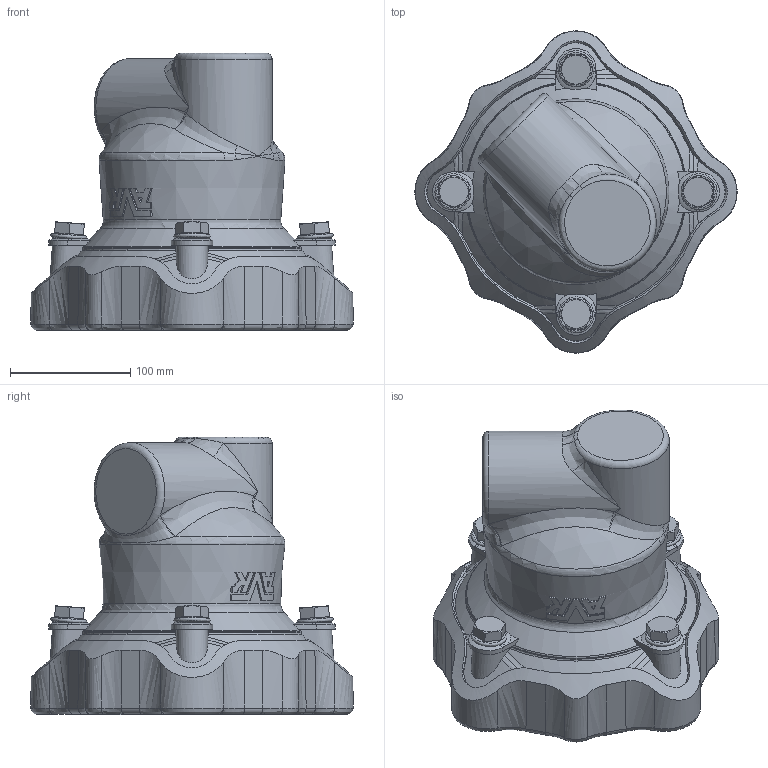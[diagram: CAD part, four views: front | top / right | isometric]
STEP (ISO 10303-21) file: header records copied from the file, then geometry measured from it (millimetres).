
FILE_DESCRIPTION (( 'STEP AP203' ), '1' );
FILE_NAME ('O_634_00_DN100_104-133mm_AA0_step.step', '2016-05-10T10:48:43', ( 'Windows User' ), ( 'AVK' ), 'SwSTEP 2.0', 'SolidWorks 2012', '' );
FILE_SCHEMA (( 'CONFIG_CONTROL_DESIGN' ));
Length unit declared in the file: millimetre
Products named in the file (1): O_634_00_DN100_104-133mm_AA0_step
Bounding box: 267.53 x 267.53 x 230.51 mm (x, y, z)
Volume: 3158870.2 mm3; surface area: 264330.8 mm2
Topology: 1 solids, 1 shells, 461 faces, 1215 edges, 770 vertices
Faces by surface type: bspline 192, plane 135, cylinder 64, cone 38, torus 24, sphere 8
Full cylindrical faces by diameter (mm): 20 x4, 133 x3
Entity records: 23548 total; most frequent: CARTESIAN_POINT 14403, ORIENTED_EDGE 2370, DIRECTION 1244, EDGE_CURVE 1185, VERTEX_POINT 762, EDGE_LOOP 497, FACE_OUTER_BOUND 477, ADVANCED_FACE 461
